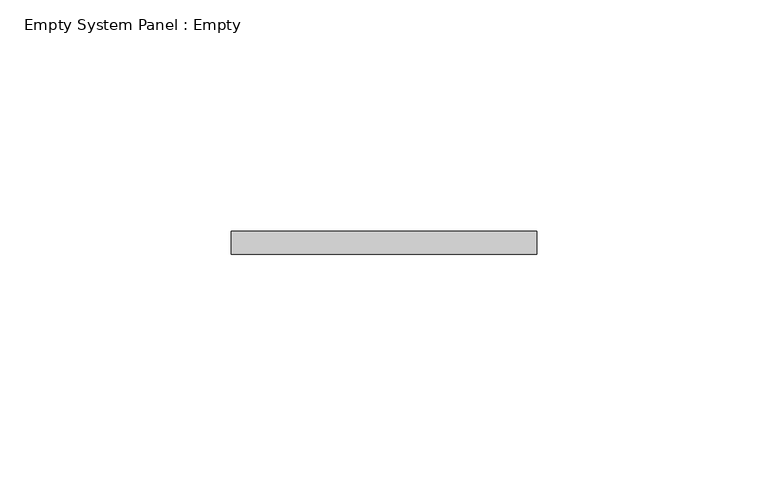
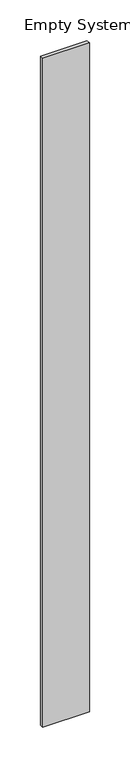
"""IFC4 building model written with IfcOpenShell, lengths in millimetres: plate geometry, Empty System Panel : Empty."""

from ifc_helpers import new_model, si_unit, origin, origin_with_axes, place, context, project, spatial, polyline, outline, extrude, source, transform, mapped, element, save


def empty_system_panel_empty_3145cffd(model_context):
    return source(origin(), model_context, "Body", "SweptSolid", [
        extrude(outline(polyline([(33.0, 97.5), (-33.0, 97.5), (-33.0, 102.5), (33.0, 102.5), (33.0, 97.5)])), origin_with_axes(), (0.0, 0.0, 1.0), 1000.0),
    ])


if __name__ == "__main__":
    model = new_model("IFC4")
    model_context = context("Model", 3, world=origin())
    ifc_project = project(units=[si_unit("LENGTHUNIT", "METRE", prefix="MILLI")], contexts=[model_context])
    site = spatial("IfcSite", under=ifc_project)
    building = spatial("IfcBuilding", under=site)
    placement = place(None, origin())
    empty_system_panel_empty_shape = empty_system_panel_empty_3145cffd(model_context)
    element("IfcPlate", 1, ObjectType="Empty System Panel : Empty", at=placement, inside=building, context=model_context, shape_type="MappedRepresentation", body=[
        mapped(empty_system_panel_empty_shape, transform((0.0, 0.0, 0.0), x_axis=(1.0, 0.0, 0.0), y_axis=(0.0, 1.0, 0.0), z_axis=(0.0, 0.0, 1.0))),
    ])
    save(model, "model.ifc")
